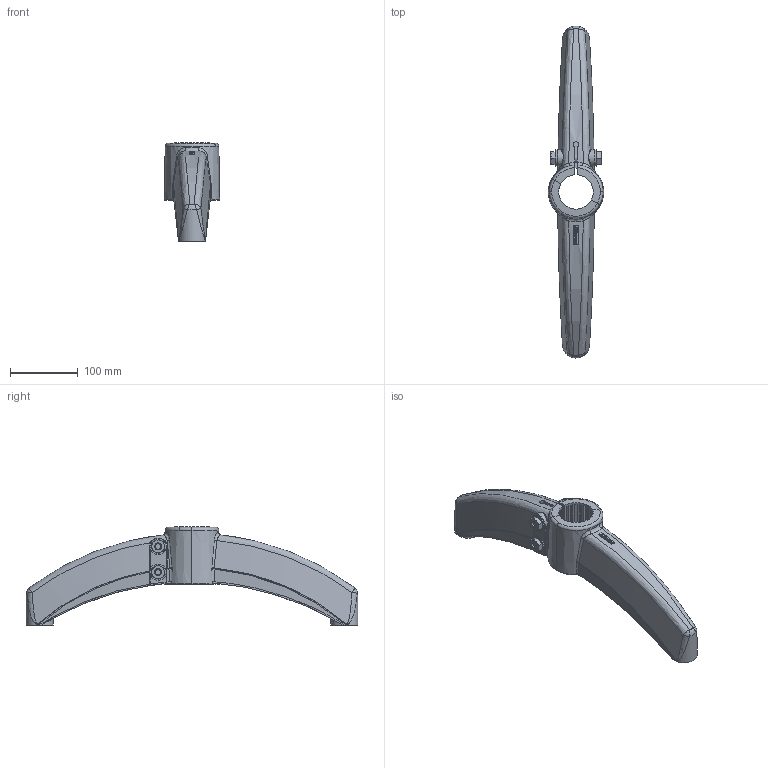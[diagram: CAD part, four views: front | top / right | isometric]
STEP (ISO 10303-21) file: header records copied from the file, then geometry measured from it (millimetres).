
FILE_DESCRIPTION(('CATIA V5 STEP Exchange'),'2;1');
FILE_NAME('X:\CODICI MOVEX\3D per clienti\Tom\16-11-2012\P40105_01.stp','2012-11-16T16:33:22+00:00',('none'),('none'),'CATIA Version 5 Release 21 SP 1 (IN-10)','CATIA V5 STEP AP203','none');
FILE_SCHEMA(('CONFIG_CONTROL_DESIGN'));
Length unit declared in the file: millimetre
Products named in the file (1): Product1
Assembly tree (9 placements, depth 2):
  Product1
    #58  x4
    #227  x2
    #1023  x2
    #1597
Bounding box: 81.95 x 490 x 144.67 mm (x, y, z)
Volume: 703970.7 mm3; surface area: 323588.4 mm2
Topology: 9 solids, 13 shells, 1982 faces, 5352 edges, 3349 vertices
Faces by surface type: bspline 742, plane 666, cylinder 363, extrusion 68, cone 54, torus 51, sphere 38
Entity records: 101443 total; most frequent: CARTESIAN_POINT 63506, ORIENTED_EDGE 10346, EDGE_CURVE 5170, DIRECTION 3579, B_SPLINE_CURVE_WITH_KNOTS 3533, VERTEX_POINT 3259, EDGE_LOOP 1953, ADVANCED_FACE 1918
